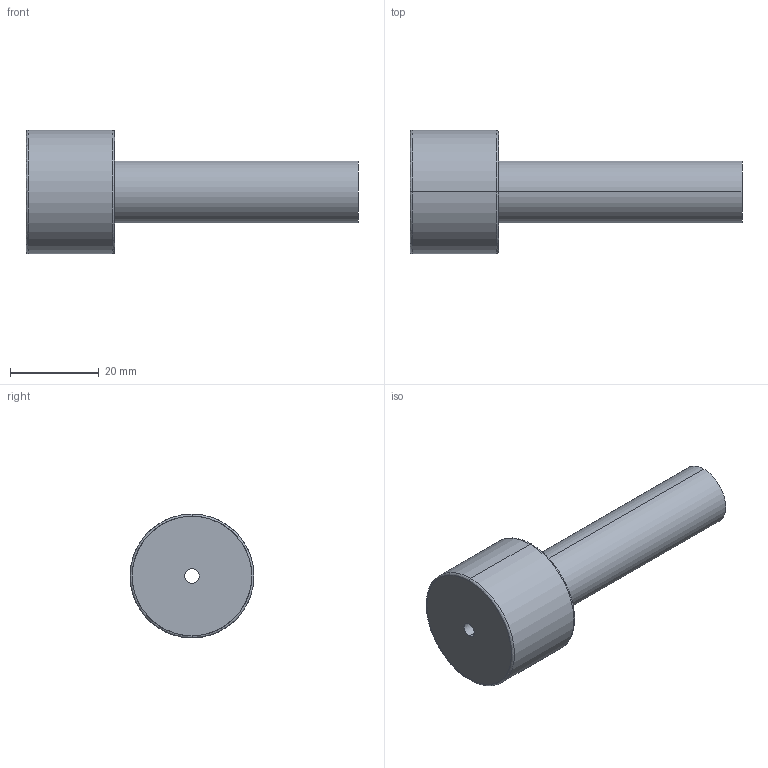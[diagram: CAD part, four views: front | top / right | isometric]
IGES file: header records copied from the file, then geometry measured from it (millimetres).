
Start section: START RECORD GO HERE.
Global section: file name: 367-14X75.igs; native system: DASSAULT SYSTEMES CATIA V5 R20 - www.3ds.com; preprocessor: CATIA Version 5 Release 20 ; author: Utente; organization: NB04-ASUS; date: 20210324.161605; units: millimetre
Bounding box: 75 x 28 x 28 mm (x, y, z)
Surface area: 6563 mm2 (no closed solid volume)
Topology: 0 solids, 0 shells, 13 faces, 84 edges, 84 vertices
Faces by surface type: revolution 10, plane 3
